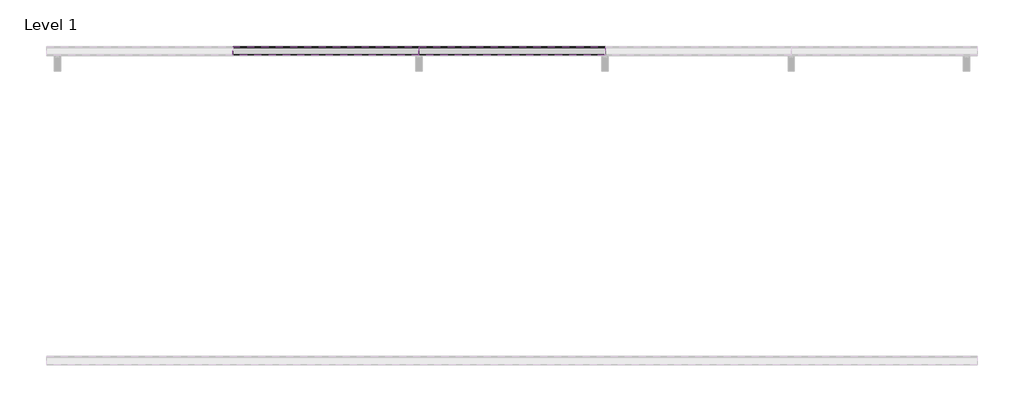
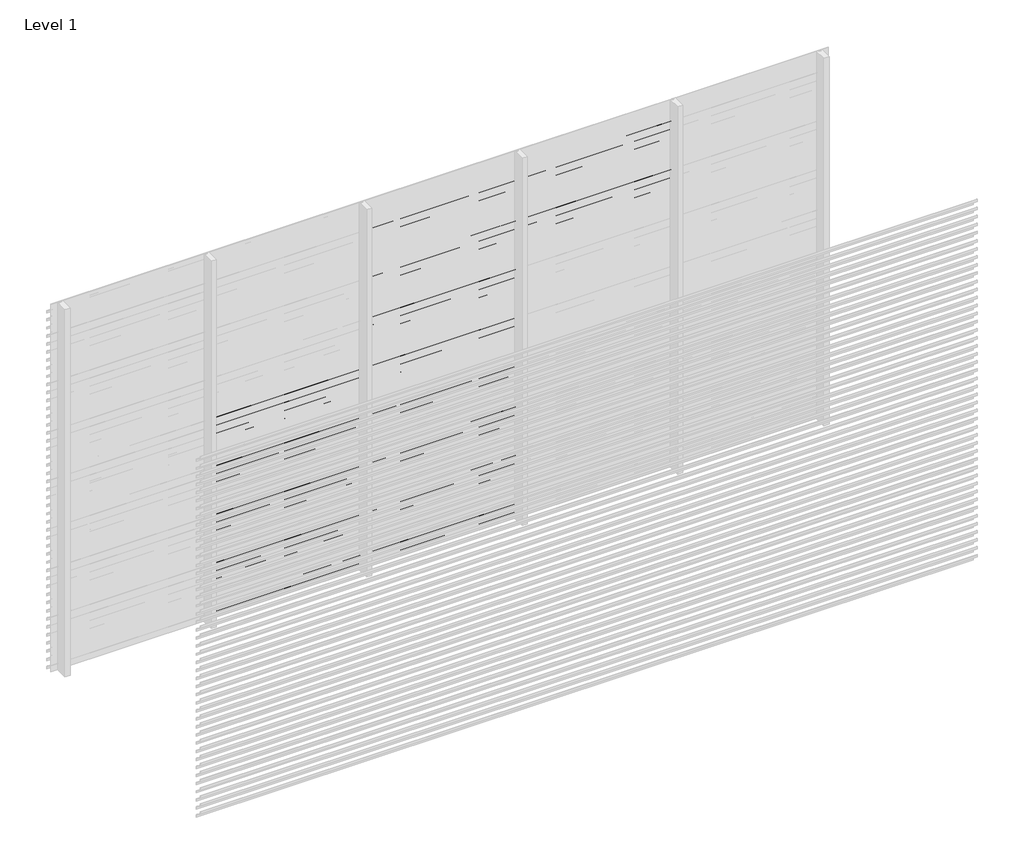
# One storey, part 38 of 540: 84 proxies.
"""IFC4 building model written with IfcOpenShell, lengths in millimetres."""

import ifcopenshell
import ifcopenshell.guid

model = None  # the IFC model being written
_history = None  # IfcOwnerHistory: only IFC2X3 demands one
_inside = {}  # id of a spatial element -> (the spatial element, [elements in it])
_under = {}  # id of a project, library or spatial element -> (it, [spatial elements below it])
_declared = {}  # id of a project -> (the project, [libraries it declares])
_typed = {}  # id of a type object -> (the type object, [elements of that type])
_made_of = {}  # id of a material, layer set ... -> (it, [elements and type objects made of it])


def new_model(schema):
    """Start an empty IFC model of exactly this schema.

    Asked for "IFC4X3", IfcOpenShell would pick the latest addendum, in which some entities
    have other attributes; the version numbers below select the first issue.
    IFC2X3 requires an IfcOwnerHistory on every rooted entity: one is made here for all.
    """
    global model, _history
    if schema == "IFC4X3":
        model = ifcopenshell.file(schema_version=(4, 3, 0, 0))
    else:
        model = ifcopenshell.file(schema=schema)
    _inside.clear()
    _under.clear()
    _declared.clear()
    _typed.clear()
    _made_of.clear()
    _history = None
    if model.schema == "IFC2X3":
        org = make("IfcOrganization", Name="unknown")
        user = make(
            "IfcPersonAndOrganization",
            ThePerson=make("IfcPerson", FamilyName="unknown"),
            TheOrganization=org,
        )
        app = make(
            "IfcApplication",
            ApplicationDeveloper=org,
            Version="unknown",
            ApplicationFullName="unknown",
            ApplicationIdentifier="unknown",
        )
        _history = make(
            "IfcOwnerHistory",
            OwningUser=user,
            OwningApplication=app,
            ChangeAction="ADDED",
            CreationDate=0,
        )
    return model


def make(cls, **values):
    """One entity of the class cls with the attributes given. An attribute that is None is left unset."""
    return model.create_entity(
        cls, **{name: value for name, value in values.items() if value is not None}
    )


def rooted(cls, **values):
    """An entity with a GlobalId (a new one), such as an element, a storey or a relation."""
    return make(cls, GlobalId=ifcopenshell.guid.new(), OwnerHistory=_history, **values)


def si_unit(unit_type, name, prefix=None):
    """IfcSIUnit, for example si_unit("LENGTHUNIT", "METRE", prefix="MILLI")."""
    return make("IfcSIUnit", UnitType=unit_type, Prefix=prefix, Name=name)


def assignment(units):
    """IfcUnitAssignment: the units of a project."""
    return None if units is None else make("IfcUnitAssignment", Units=units)


def point(xyz):
    """IfcCartesianPoint."""
    return None if xyz is None else make("IfcCartesianPoint", Coordinates=xyz)


def direction(xyz):
    """IfcDirection."""
    return None if xyz is None else make("IfcDirection", DirectionRatios=xyz)


def frame(location, z_axis=None, x_axis=None):
    """IfcAxis2Placement3D, a coordinate frame: its origin and axes. An axis left out is left unset."""
    return make(
        "IfcAxis2Placement3D",
        Location=point(location),
        Axis=direction(z_axis),
        RefDirection=direction(x_axis),
    )


def origin():
    """The frame at (0, 0, 0) with its axes left unset."""
    return frame((0.0, 0.0, 0.0))


def place(relative_to, where):
    """IfcLocalPlacement: puts the frame where relative to a parent placement (None: the world)."""
    return make(
        "IfcLocalPlacement", PlacementRelTo=relative_to, RelativePlacement=where
    )


def context(
    kind, dimensions, precision=None, world=None, true_north=None, identifier=None
):
    """IfcGeometricRepresentationContext, for example the 3D "Model" context."""
    return make(
        "IfcGeometricRepresentationContext",
        ContextIdentifier=identifier,
        ContextType=kind,
        CoordinateSpaceDimension=dimensions,
        Precision=precision,
        WorldCoordinateSystem=world,
        TrueNorth=true_north,
    )


def project(units=None, contexts=None):
    """IfcProject with its units and contexts."""
    return rooted(
        "IfcProject",
        Name="project",
        RepresentationContexts=contexts,
        UnitsInContext=assignment(units),
    )


def spatial(cls, under=None, at=None, **own):
    """A site, building, storey or space (cls), placed at a placement, below another one or the project."""
    s = rooted(cls, ObjectPlacement=at, **own)
    if under is not None:
        _under.setdefault(under.id(), (under, []))[1].append(s)
    return s


def polyline(points):
    """IfcPolyline through the points."""
    return make("IfcPolyline", Points=[point(p) for p in points])


def outline(outer, holes=None, kind="AREA"):
    """IfcArbitraryClosedProfileDef: a profile drawn as a closed curve; with holes, ...WithVoids."""
    if holes is None:
        return make("IfcArbitraryClosedProfileDef", ProfileType=kind, OuterCurve=outer)
    return make(
        "IfcArbitraryProfileDefWithVoids",
        ProfileType=kind,
        OuterCurve=outer,
        InnerCurves=holes,
    )


def extrude(swept, where, along, depth):
    """IfcExtrudedAreaSolid: the profile swept, set in the frame where, extruded along a direction by depth."""
    return make(
        "IfcExtrudedAreaSolid",
        SweptArea=swept,
        Position=where,
        ExtrudedDirection=direction(along),
        Depth=depth,
    )


def shape(context_of_items, identifier, shape_type, items):
    """IfcShapeRepresentation: the items that make up one representation, for example the "Body"."""
    return make(
        "IfcShapeRepresentation",
        ContextOfItems=context_of_items,
        RepresentationIdentifier=identifier,
        RepresentationType=shape_type,
        Items=items,
    )


def made_of(thing, what):
    """Note that an element or type object is made of a material, layer set ...; save() writes the relation."""
    if what is not None:
        _made_of.setdefault(what.id(), (what, []))[1].append(thing)
    return thing


def element(
    cls,
    number,
    at=None,
    inside=None,
    cuts=None,
    type_object=None,
    material=None,
    context=None,
    identifier="Body",
    shape_type=None,
    held_by="IfcProductDefinitionShape",
    body=None,
    shapes=None,
    **own,
):
    """One element of the class cls, such as IfcWall. Its Tag is "e" and its number.

    at: its placement. inside: the storey or other place that contains it. cuts: it is an
    opening in that element (IfcRelVoidsElement). A single representation is given by context,
    identifier, shape_type and body (its items); several are given by shapes. held_by: the class
    of the entity that holds the representations. save() writes the other relations.
    """
    e = rooted(cls, Tag="e%d" % number, ObjectPlacement=at, **own)
    if body is not None:
        shapes = [shape(context, identifier, shape_type, body)]
    if shapes is not None:
        e.Representation = make(held_by, Representations=shapes)
    if inside is not None:
        _inside.setdefault(inside.id(), (inside, []))[1].append(e)
    if cuts is not None:
        rooted(
            "IfcRelVoidsElement", RelatingBuildingElement=cuts, RelatedOpeningElement=e
        )
    if type_object is not None:
        _typed.setdefault(type_object.id(), (type_object, []))[1].append(e)
    return made_of(e, material)


def aggregate(whole, parts):
    """IfcRelAggregates: a whole, such as a stair, and the parts it consists of."""
    return rooted("IfcRelAggregates", RelatingObject=whole, RelatedObjects=parts)


def save(model, path):
    """Write the relations noted so far, then the file.

    IfcRelAggregates (storeys below a building ...), IfcRelContainedInSpatialStructure (elements
    in a storey), IfcRelDefinesByType, IfcRelAssociatesMaterial and IfcRelDeclares: one each for
    every whole, place, type object, material and project.
    """
    for whole, parts in _under.values():
        aggregate(whole, parts)
    for where, things in _inside.values():
        rooted(
            "IfcRelContainedInSpatialStructure",
            RelatedElements=things,
            RelatingStructure=where,
        )
    for kind, things in _typed.values():
        rooted("IfcRelDefinesByType", RelatedObjects=things, RelatingType=kind)
    for what, things in _made_of.values():
        rooted("IfcRelAssociatesMaterial", RelatedObjects=things, RelatingMaterial=what)
    for by, libraries in _declared.values():
        rooted("IfcRelDeclares", RelatingContext=by, RelatedDefinitions=libraries)
    model.write(path)


model = new_model("IFC4")

# Units and contexts
model_context = context("Model", 3, world=origin())
ifc_project = project(units=[si_unit("LENGTHUNIT", "METRE", prefix="MILLI")], contexts=[model_context])

# Site, building, storey
site = spatial("IfcSite", under=ifc_project)
building = spatial("IfcBuilding", under=site)
storey = spatial("IfcBuildingStorey", under=building, Name="Level 1", Elevation=0.0)

# Proxies
placement = place(None, origin())
element("IfcBuildingElementProxy", 1, Name="Wall Sweeps", at=placement, inside=storey, context=model_context, shape_type="SweptSolid", body=[
    extrude(outline(polyline([(29081.0540136, 1725.5), (29081.0540136, 1705.5), (29079.8040136, 1706.2216933), (29079.8040136, 1724.7872415), (29026.0540136, 1762.3158044), (29026.0540136, 1782.0), (29027.3040136, 1782.0), (29027.3040136, 1763.0285629), (29081.0540136, 1725.5)])), frame((1666.6208099, 0.0, 0.0), z_axis=(1.0, 0.0, 0.0), x_axis=(0.0, 1.0, 0.0)), (0.0, 0.0, 1.0), 1199.9999999),
])
element("IfcBuildingElementProxy", 2, Name="Wall Sweeps", at=placement, inside=storey, context=model_context, shape_type="SweptSolid", body=[
    extrude(outline(polyline([(29081.0540136, 1659.5), (29081.0540136, 1639.5), (29079.8040136, 1640.2216933), (29079.8040136, 1658.7872415), (29026.0540136, 1696.3158044), (29026.0540136, 1716.0), (29027.3040136, 1716.0), (29027.3040136, 1697.0285629), (29081.0540136, 1659.5)])), frame((1666.6208099, 0.0, 0.0), z_axis=(1.0, 0.0, 0.0), x_axis=(0.0, 1.0, 0.0)), (0.0, 0.0, 1.0), 1199.9999999),
])
element("IfcBuildingElementProxy", 3, Name="Wall Sweeps", at=placement, inside=storey, context=model_context, shape_type="SweptSolid", body=[
    extrude(outline(polyline([(29081.0540136, 1593.5), (29081.0540136, 1573.5), (29079.8040136, 1574.2216933), (29079.8040136, 1592.7872415), (29026.0540136, 1630.3158044), (29026.0540136, 1650.0), (29027.3040136, 1650.0), (29027.3040136, 1631.0285629), (29081.0540136, 1593.5)])), frame((1666.6208099, 0.0, 0.0), z_axis=(1.0, 0.0, 0.0), x_axis=(0.0, 1.0, 0.0)), (0.0, 0.0, 1.0), 1199.9999999),
])
element("IfcBuildingElementProxy", 4, Name="Wall Sweeps", at=placement, inside=storey, context=model_context, shape_type="SweptSolid", body=[
    extrude(outline(polyline([(29081.0540136, 1527.5), (29081.0540136, 1507.5), (29079.8040136, 1508.2216933), (29079.8040136, 1526.7872415), (29026.0540136, 1564.3158044), (29026.0540136, 1584.0), (29027.3040136, 1584.0), (29027.3040136, 1565.0285629), (29081.0540136, 1527.5)])), frame((1666.6208099, 0.0, 0.0), z_axis=(1.0, 0.0, 0.0), x_axis=(0.0, 1.0, 0.0)), (0.0, 0.0, 1.0), 1199.9999999),
])
element("IfcBuildingElementProxy", 5, Name="Wall Sweeps", at=placement, inside=storey, context=model_context, shape_type="SweptSolid", body=[
    extrude(outline(polyline([(29081.0540136, 1461.5), (29081.0540136, 1441.5), (29079.8040136, 1442.2216933), (29079.8040136, 1460.7872415), (29026.0540136, 1498.3158044), (29026.0540136, 1518.0), (29027.3040136, 1518.0), (29027.3040136, 1499.0285629), (29081.0540136, 1461.5)])), frame((1666.6208099, 0.0, 0.0), z_axis=(1.0, 0.0, 0.0), x_axis=(0.0, 1.0, 0.0)), (0.0, 0.0, 1.0), 1199.9999999),
])
element("IfcBuildingElementProxy", 6, Name="Wall Sweeps", at=placement, inside=storey, context=model_context, shape_type="SweptSolid", body=[
    extrude(outline(polyline([(29081.0540136, 1395.5), (29081.0540136, 1375.5), (29079.8040136, 1376.2216933), (29079.8040136, 1394.7872415), (29026.0540136, 1432.3158044), (29026.0540136, 1452.0), (29027.3040136, 1452.0), (29027.3040136, 1433.0285629), (29081.0540136, 1395.5)])), frame((1666.6208099, 0.0, 0.0), z_axis=(1.0, 0.0, 0.0), x_axis=(0.0, 1.0, 0.0)), (0.0, 0.0, 1.0), 1199.9999999),
])
element("IfcBuildingElementProxy", 7, Name="Wall Sweeps", at=placement, inside=storey, context=model_context, shape_type="SweptSolid", body=[
    extrude(outline(polyline([(29081.0540136, 1329.5), (29081.0540136, 1309.5), (29079.8040136, 1310.2216933), (29079.8040136, 1328.7872415), (29026.0540136, 1366.3158044), (29026.0540136, 1386.0), (29027.3040136, 1386.0), (29027.3040136, 1367.0285629), (29081.0540136, 1329.5)])), frame((1666.6208099, 0.0, 0.0), z_axis=(1.0, 0.0, 0.0), x_axis=(0.0, 1.0, 0.0)), (0.0, 0.0, 1.0), 1199.9999999),
])
element("IfcBuildingElementProxy", 8, Name="Wall Sweeps", at=placement, inside=storey, context=model_context, shape_type="SweptSolid", body=[
    extrude(outline(polyline([(29081.0540136, 1263.5), (29081.0540136, 1243.5), (29079.8040136, 1244.2216933), (29079.8040136, 1262.7872415), (29026.0540136, 1300.3158044), (29026.0540136, 1320.0), (29027.3040136, 1320.0), (29027.3040136, 1301.0285629), (29081.0540136, 1263.5)])), frame((1666.6208099, 0.0, 0.0), z_axis=(1.0, 0.0, 0.0), x_axis=(0.0, 1.0, 0.0)), (0.0, 0.0, 1.0), 1199.9999999),
])
element("IfcBuildingElementProxy", 9, Name="Wall Sweeps", at=placement, inside=storey, context=model_context, shape_type="SweptSolid", body=[
    extrude(outline(polyline([(29081.0540136, 1197.5), (29081.0540136, 1177.5), (29079.8040136, 1178.2216933), (29079.8040136, 1196.7872415), (29026.0540136, 1234.3158044), (29026.0540136, 1254.0), (29027.3040136, 1254.0), (29027.3040136, 1235.0285629), (29081.0540136, 1197.5)])), frame((1666.6208099, 0.0, 0.0), z_axis=(1.0, 0.0, 0.0), x_axis=(0.0, 1.0, 0.0)), (0.0, 0.0, 1.0), 1199.9999999),
])
element("IfcBuildingElementProxy", 10, Name="Wall Sweeps", at=placement, inside=storey, context=model_context, shape_type="SweptSolid", body=[
    extrude(outline(polyline([(29081.0540136, 1131.5), (29081.0540136, 1111.5), (29079.8040136, 1112.2216933), (29079.8040136, 1130.7872415), (29026.0540136, 1168.3158044), (29026.0540136, 1188.0), (29027.3040136, 1188.0), (29027.3040136, 1169.0285629), (29081.0540136, 1131.5)])), frame((1666.6208099, 0.0, 0.0), z_axis=(1.0, 0.0, 0.0), x_axis=(0.0, 1.0, 0.0)), (0.0, 0.0, 1.0), 1199.9999999),
])
element("IfcBuildingElementProxy", 11, Name="Wall Sweeps", at=placement, inside=storey, context=model_context, shape_type="SweptSolid", body=[
    extrude(outline(polyline([(29081.0540136, 1065.5), (29081.0540136, 1045.5), (29079.8040136, 1046.2216933), (29079.8040136, 1064.7872415), (29026.0540136, 1102.3158044), (29026.0540136, 1122.0), (29027.3040136, 1122.0), (29027.3040136, 1103.0285629), (29081.0540136, 1065.5)])), frame((1666.6208099, 0.0, 0.0), z_axis=(1.0, 0.0, 0.0), x_axis=(0.0, 1.0, 0.0)), (0.0, 0.0, 1.0), 1199.9999999),
])
element("IfcBuildingElementProxy", 12, Name="Wall Sweeps", at=placement, inside=storey, context=model_context, shape_type="SweptSolid", body=[
    extrude(outline(polyline([(29081.0540136, 999.5), (29081.0540136, 979.5), (29079.8040136, 980.2216933), (29079.8040136, 998.7872415), (29026.0540136, 1036.3158044), (29026.0540136, 1056.0), (29027.3040136, 1056.0), (29027.3040136, 1037.0285629), (29081.0540136, 999.5)])), frame((1666.6208099, 0.0, 0.0), z_axis=(1.0, 0.0, 0.0), x_axis=(0.0, 1.0, 0.0)), (0.0, 0.0, 1.0), 1199.9999999),
])
element("IfcBuildingElementProxy", 13, Name="Wall Sweeps", at=placement, inside=storey, context=model_context, shape_type="SweptSolid", body=[
    extrude(outline(polyline([(29081.0540136, 933.5), (29081.0540136, 913.5), (29079.8040136, 914.2216933), (29079.8040136, 932.7872415), (29026.0540136, 970.3158044), (29026.0540136, 990.0), (29027.3040136, 990.0), (29027.3040136, 971.0285629), (29081.0540136, 933.5)])), frame((1666.6208099, 0.0, 0.0), z_axis=(1.0, 0.0, 0.0), x_axis=(0.0, 1.0, 0.0)), (0.0, 0.0, 1.0), 1199.9999999),
])
element("IfcBuildingElementProxy", 14, Name="Wall Sweeps", at=placement, inside=storey, context=model_context, shape_type="SweptSolid", body=[
    extrude(outline(polyline([(29081.0540136, 867.5), (29081.0540136, 847.5), (29079.8040136, 848.2216933), (29079.8040136, 866.7872415), (29026.0540136, 904.3158044), (29026.0540136, 924.0), (29027.3040136, 924.0), (29027.3040136, 905.0285629), (29081.0540136, 867.5)])), frame((1666.6208099, 0.0, 0.0), z_axis=(1.0, 0.0, 0.0), x_axis=(0.0, 1.0, 0.0)), (0.0, 0.0, 1.0), 1199.9999999),
])
element("IfcBuildingElementProxy", 15, Name="Wall Sweeps", at=placement, inside=storey, context=model_context, shape_type="SweptSolid", body=[
    extrude(outline(polyline([(29081.0540136, 801.5), (29081.0540136, 781.5), (29079.8040136, 782.2216933), (29079.8040136, 800.7872415), (29026.0540136, 838.3158044), (29026.0540136, 858.0), (29027.3040136, 858.0), (29027.3040136, 839.0285629), (29081.0540136, 801.5)])), frame((1666.6208099, 0.0, 0.0), z_axis=(1.0, 0.0, 0.0), x_axis=(0.0, 1.0, 0.0)), (0.0, 0.0, 1.0), 1199.9999999),
])
element("IfcBuildingElementProxy", 16, Name="Wall Sweeps", at=placement, inside=storey, context=model_context, shape_type="SweptSolid", body=[
    extrude(outline(polyline([(29081.0540136, 735.5), (29081.0540136, 715.5), (29079.8040136, 716.2216933), (29079.8040136, 734.7872415), (29026.0540136, 772.3158044), (29026.0540136, 792.0), (29027.3040136, 792.0), (29027.3040136, 773.0285629), (29081.0540136, 735.5)])), frame((1666.6208099, 0.0, 0.0), z_axis=(1.0, 0.0, 0.0), x_axis=(0.0, 1.0, 0.0)), (0.0, 0.0, 1.0), 1199.9999999),
])
element("IfcBuildingElementProxy", 17, Name="Wall Sweeps", at=placement, inside=storey, context=model_context, shape_type="SweptSolid", body=[
    extrude(outline(polyline([(29081.0540136, 669.5), (29081.0540136, 649.5), (29079.8040136, 650.2216933), (29079.8040136, 668.7872415), (29026.0540136, 706.3158044), (29026.0540136, 726.0), (29027.3040136, 726.0), (29027.3040136, 707.0285629), (29081.0540136, 669.5)])), frame((1666.6208099, 0.0, 0.0), z_axis=(1.0, 0.0, 0.0), x_axis=(0.0, 1.0, 0.0)), (0.0, 0.0, 1.0), 1199.9999999),
])
element("IfcBuildingElementProxy", 18, Name="Wall Sweeps", at=placement, inside=storey, context=model_context, shape_type="SweptSolid", body=[
    extrude(outline(polyline([(29081.0540136, 603.5), (29081.0540136, 583.5), (29079.8040136, 584.2216933), (29079.8040136, 602.7872415), (29026.0540136, 640.3158044), (29026.0540136, 660.0), (29027.3040136, 660.0), (29027.3040136, 641.0285629), (29081.0540136, 603.5)])), frame((1666.6208099, 0.0, 0.0), z_axis=(1.0, 0.0, 0.0), x_axis=(0.0, 1.0, 0.0)), (0.0, 0.0, 1.0), 1199.9999999),
])
element("IfcBuildingElementProxy", 19, Name="Wall Sweeps", at=placement, inside=storey, context=model_context, shape_type="SweptSolid", body=[
    extrude(outline(polyline([(29081.0540136, 537.5), (29081.0540136, 517.5), (29079.8040136, 518.2216933), (29079.8040136, 536.7872415), (29026.0540136, 574.3158044), (29026.0540136, 594.0), (29027.3040136, 594.0), (29027.3040136, 575.0285629), (29081.0540136, 537.5)])), frame((1666.6208099, 0.0, 0.0), z_axis=(1.0, 0.0, 0.0), x_axis=(0.0, 1.0, 0.0)), (0.0, 0.0, 1.0), 1199.9999999),
])
element("IfcBuildingElementProxy", 20, Name="Wall Sweeps", at=placement, inside=storey, context=model_context, shape_type="SweptSolid", body=[
    extrude(outline(polyline([(29081.0540136, 471.5), (29081.0540136, 451.5), (29079.8040136, 452.2216933), (29079.8040136, 470.7872415), (29026.0540136, 508.3158044), (29026.0540136, 528.0), (29027.3040136, 528.0), (29027.3040136, 509.0285629), (29081.0540136, 471.5)])), frame((1666.6208099, 0.0, 0.0), z_axis=(1.0, 0.0, 0.0), x_axis=(0.0, 1.0, 0.0)), (0.0, 0.0, 1.0), 1199.9999999),
])
element("IfcBuildingElementProxy", 21, Name="Wall Sweeps", at=placement, inside=storey, context=model_context, shape_type="SweptSolid", body=[
    extrude(outline(polyline([(29081.0540136, 405.5), (29081.0540136, 385.5), (29079.8040136, 386.2216933), (29079.8040136, 404.7872415), (29026.0540136, 442.3158044), (29026.0540136, 462.0), (29027.3040136, 462.0), (29027.3040136, 443.0285629), (29081.0540136, 405.5)])), frame((1666.6208099, 0.0, 0.0), z_axis=(1.0, 0.0, 0.0), x_axis=(0.0, 1.0, 0.0)), (0.0, 0.0, 1.0), 1199.9999999),
])
element("IfcBuildingElementProxy", 22, Name="Wall Sweeps", at=placement, inside=storey, context=model_context, shape_type="SweptSolid", body=[
    extrude(outline(polyline([(29081.0540136, 339.5), (29081.0540136, 319.5), (29079.8040136, 320.2216933), (29079.8040136, 338.7872415), (29026.0540136, 376.3158044), (29026.0540136, 396.0), (29027.3040136, 396.0), (29027.3040136, 377.0285629), (29081.0540136, 339.5)])), frame((1666.6208099, 0.0, 0.0), z_axis=(1.0, 0.0, 0.0), x_axis=(0.0, 1.0, 0.0)), (0.0, 0.0, 1.0), 1199.9999999),
])
element("IfcBuildingElementProxy", 23, Name="Wall Sweeps", at=placement, inside=storey, context=model_context, shape_type="SweptSolid", body=[
    extrude(outline(polyline([(29081.0540136, 273.5), (29081.0540136, 253.5), (29079.8040136, 254.2216933), (29079.8040136, 272.7872415), (29026.0540136, 310.3158044), (29026.0540136, 330.0), (29027.3040136, 330.0), (29027.3040136, 311.0285629), (29081.0540136, 273.5)])), frame((1666.6208099, 0.0, 0.0), z_axis=(1.0, 0.0, 0.0), x_axis=(0.0, 1.0, 0.0)), (0.0, 0.0, 1.0), 1199.9999999),
])
element("IfcBuildingElementProxy", 24, Name="Wall Sweeps", at=placement, inside=storey, context=model_context, shape_type="SweptSolid", body=[
    extrude(outline(polyline([(29081.0540136, 207.5), (29081.0540136, 187.5), (29079.8040136, 188.2216933), (29079.8040136, 206.7872415), (29026.0540136, 244.3158044), (29026.0540136, 264.0), (29027.3040136, 264.0), (29027.3040136, 245.0285629), (29081.0540136, 207.5)])), frame((1666.6208099, 0.0, 0.0), z_axis=(1.0, 0.0, 0.0), x_axis=(0.0, 1.0, 0.0)), (0.0, 0.0, 1.0), 1199.9999999),
])
element("IfcBuildingElementProxy", 25, Name="Wall Sweeps", at=placement, inside=storey, context=model_context, shape_type="SweptSolid", body=[
    extrude(outline(polyline([(29081.0540136, 141.5), (29081.0540136, 121.5), (29079.8040136, 122.2216933), (29079.8040136, 140.7872415), (29026.0540136, 178.3158044), (29026.0540136, 198.0), (29027.3040136, 198.0), (29027.3040136, 179.0285629), (29081.0540136, 141.5)])), frame((1666.6208099, 0.0, 0.0), z_axis=(1.0, 0.0, 0.0), x_axis=(0.0, 1.0, 0.0)), (0.0, 0.0, 1.0), 1199.9999999),
])
element("IfcBuildingElementProxy", 26, Name="Wall Sweeps", at=placement, inside=storey, context=model_context, shape_type="SweptSolid", body=[
    extrude(outline(polyline([(29081.0540136, 75.5), (29081.0540136, 55.5), (29079.8040136, 56.2216933), (29079.8040136, 74.7872415), (29026.0540136, 112.3158044), (29026.0540136, 132.0), (29027.3040136, 132.0), (29027.3040136, 113.0285629), (29081.0540136, 75.5)])), frame((1666.6208099, 0.0, 0.0), z_axis=(1.0, 0.0, 0.0), x_axis=(0.0, 1.0, 0.0)), (0.0, 0.0, 1.0), 1199.9999999),
])
element("IfcBuildingElementProxy", 27, Name="Wall Sweeps", at=placement, inside=storey, context=model_context, shape_type="SweptSolid", body=[
    extrude(outline(polyline([(29081.0540136, 9.5), (29081.0540136, -10.5), (29079.8040136, -9.7783067), (29079.8040136, 8.7872415), (29026.0540136, 46.3158044), (29026.0540136, 66.0), (29027.3040136, 66.0), (29027.3040136, 47.0285629), (29081.0540136, 9.5)])), frame((1666.6208099, 0.0, 0.0), z_axis=(1.0, 0.0, 0.0), x_axis=(0.0, 1.0, 0.0)), (0.0, 0.0, 1.0), 1199.9999999),
])
element("IfcBuildingElementProxy", 28, Name="Wall Sweeps", at=placement, inside=storey, context=model_context, shape_type="SweptSolid", body=[
    extrude(outline(polyline([(29081.0540136, 2913.5), (29081.0540136, 2893.5), (29079.8040136, 2894.2216933), (29079.8040136, 2912.7872415), (29026.0540136, 2950.3158044), (29026.0540136, 2970.0), (29027.3040136, 2970.0), (29027.3040136, 2951.0285629), (29081.0540136, 2913.5)])), frame((2866.6208097, 0.0, 0.0), z_axis=(1.0, 0.0, 0.0), x_axis=(0.0, 1.0, 0.0)), (0.0, 0.0, 1.0), 1199.9999999),
])
element("IfcBuildingElementProxy", 29, Name="Wall Sweeps", at=placement, inside=storey, context=model_context, shape_type="SweptSolid", body=[
    extrude(outline(polyline([(29081.0540136, 2847.5), (29081.0540136, 2827.5), (29079.8040136, 2828.2216933), (29079.8040136, 2846.7872415), (29026.0540136, 2884.3158044), (29026.0540136, 2904.0), (29027.3040136, 2904.0), (29027.3040136, 2885.0285629), (29081.0540136, 2847.5)])), frame((2866.6208097, 0.0, 0.0), z_axis=(1.0, 0.0, 0.0), x_axis=(0.0, 1.0, 0.0)), (0.0, 0.0, 1.0), 1199.9999999),
])
element("IfcBuildingElementProxy", 30, Name="Wall Sweeps", at=placement, inside=storey, context=model_context, shape_type="SweptSolid", body=[
    extrude(outline(polyline([(29081.0540136, 2781.5), (29081.0540136, 2761.5), (29079.8040136, 2762.2216933), (29079.8040136, 2780.7872415), (29026.0540136, 2818.3158044), (29026.0540136, 2838.0), (29027.3040136, 2838.0), (29027.3040136, 2819.0285629), (29081.0540136, 2781.5)])), frame((2866.6208097, 0.0, 0.0), z_axis=(1.0, 0.0, 0.0), x_axis=(0.0, 1.0, 0.0)), (0.0, 0.0, 1.0), 1199.9999999),
])
element("IfcBuildingElementProxy", 31, Name="Wall Sweeps", at=placement, inside=storey, context=model_context, shape_type="SweptSolid", body=[
    extrude(outline(polyline([(29081.0540136, 2715.5), (29081.0540136, 2695.5), (29079.8040136, 2696.2216933), (29079.8040136, 2714.7872415), (29026.0540136, 2752.3158044), (29026.0540136, 2772.0), (29027.3040136, 2772.0), (29027.3040136, 2753.0285629), (29081.0540136, 2715.5)])), frame((2866.6208097, 0.0, 0.0), z_axis=(1.0, 0.0, 0.0), x_axis=(0.0, 1.0, 0.0)), (0.0, 0.0, 1.0), 1199.9999999),
])
element("IfcBuildingElementProxy", 32, Name="Wall Sweeps", at=placement, inside=storey, context=model_context, shape_type="SweptSolid", body=[
    extrude(outline(polyline([(29081.0540136, 2649.5), (29081.0540136, 2629.5), (29079.8040136, 2630.2216933), (29079.8040136, 2648.7872415), (29026.0540136, 2686.3158044), (29026.0540136, 2706.0), (29027.3040136, 2706.0), (29027.3040136, 2687.0285629), (29081.0540136, 2649.5)])), frame((2866.6208097, 0.0, 0.0), z_axis=(1.0, 0.0, 0.0), x_axis=(0.0, 1.0, 0.0)), (0.0, 0.0, 1.0), 1199.9999999),
])
element("IfcBuildingElementProxy", 33, Name="Wall Sweeps", at=placement, inside=storey, context=model_context, shape_type="SweptSolid", body=[
    extrude(outline(polyline([(29081.0540136, 2583.5), (29081.0540136, 2563.5), (29079.8040136, 2564.2216933), (29079.8040136, 2582.7872415), (29026.0540136, 2620.3158044), (29026.0540136, 2640.0), (29027.3040136, 2640.0), (29027.3040136, 2621.0285629), (29081.0540136, 2583.5)])), frame((2866.6208097, 0.0, 0.0), z_axis=(1.0, 0.0, 0.0), x_axis=(0.0, 1.0, 0.0)), (0.0, 0.0, 1.0), 1199.9999999),
])
element("IfcBuildingElementProxy", 34, Name="Wall Sweeps", at=placement, inside=storey, context=model_context, shape_type="SweptSolid", body=[
    extrude(outline(polyline([(29081.0540136, 2517.5), (29081.0540136, 2497.5), (29079.8040136, 2498.2216933), (29079.8040136, 2516.7872415), (29026.0540136, 2554.3158044), (29026.0540136, 2574.0), (29027.3040136, 2574.0), (29027.3040136, 2555.0285629), (29081.0540136, 2517.5)])), frame((2866.6208097, 0.0, 0.0), z_axis=(1.0, 0.0, 0.0), x_axis=(0.0, 1.0, 0.0)), (0.0, 0.0, 1.0), 1199.9999999),
])
element("IfcBuildingElementProxy", 35, Name="Wall Sweeps", at=placement, inside=storey, context=model_context, shape_type="SweptSolid", body=[
    extrude(outline(polyline([(29081.0540136, 2451.5), (29081.0540136, 2431.5), (29079.8040136, 2432.2216933), (29079.8040136, 2450.7872415), (29026.0540136, 2488.3158044), (29026.0540136, 2508.0), (29027.3040136, 2508.0), (29027.3040136, 2489.0285629), (29081.0540136, 2451.5)])), frame((2866.6208097, 0.0, 0.0), z_axis=(1.0, 0.0, 0.0), x_axis=(0.0, 1.0, 0.0)), (0.0, 0.0, 1.0), 1199.9999999),
])
element("IfcBuildingElementProxy", 36, Name="Wall Sweeps", at=placement, inside=storey, context=model_context, shape_type="SweptSolid", body=[
    extrude(outline(polyline([(29081.0540136, 2385.5), (29081.0540136, 2365.5), (29079.8040136, 2366.2216933), (29079.8040136, 2384.7872415), (29026.0540136, 2422.3158044), (29026.0540136, 2442.0), (29027.3040136, 2442.0), (29027.3040136, 2423.0285629), (29081.0540136, 2385.5)])), frame((2866.6208097, 0.0, 0.0), z_axis=(1.0, 0.0, 0.0), x_axis=(0.0, 1.0, 0.0)), (0.0, 0.0, 1.0), 1199.9999999),
])
element("IfcBuildingElementProxy", 37, Name="Wall Sweeps", at=placement, inside=storey, context=model_context, shape_type="SweptSolid", body=[
    extrude(outline(polyline([(29081.0540136, 2319.5), (29081.0540136, 2299.5), (29079.8040136, 2300.2216933), (29079.8040136, 2318.7872415), (29026.0540136, 2356.3158044), (29026.0540136, 2376.0), (29027.3040136, 2376.0), (29027.3040136, 2357.0285629), (29081.0540136, 2319.5)])), frame((2866.6208097, 0.0, 0.0), z_axis=(1.0, 0.0, 0.0), x_axis=(0.0, 1.0, 0.0)), (0.0, 0.0, 1.0), 1199.9999999),
])
element("IfcBuildingElementProxy", 38, Name="Wall Sweeps", at=placement, inside=storey, context=model_context, shape_type="SweptSolid", body=[
    extrude(outline(polyline([(29081.0540136, 2253.5), (29081.0540136, 2233.5), (29079.8040136, 2234.2216933), (29079.8040136, 2252.7872415), (29026.0540136, 2290.3158044), (29026.0540136, 2310.0), (29027.3040136, 2310.0), (29027.3040136, 2291.0285629), (29081.0540136, 2253.5)])), frame((2866.6208097, 0.0, 0.0), z_axis=(1.0, 0.0, 0.0), x_axis=(0.0, 1.0, 0.0)), (0.0, 0.0, 1.0), 1199.9999999),
])
element("IfcBuildingElementProxy", 39, Name="Wall Sweeps", at=placement, inside=storey, context=model_context, shape_type="SweptSolid", body=[
    extrude(outline(polyline([(29081.0540136, 2187.5), (29081.0540136, 2167.5), (29079.8040136, 2168.2216933), (29079.8040136, 2186.7872415), (29026.0540136, 2224.3158044), (29026.0540136, 2244.0), (29027.3040136, 2244.0), (29027.3040136, 2225.0285629), (29081.0540136, 2187.5)])), frame((2866.6208097, 0.0, 0.0), z_axis=(1.0, 0.0, 0.0), x_axis=(0.0, 1.0, 0.0)), (0.0, 0.0, 1.0), 1199.9999999),
])
element("IfcBuildingElementProxy", 40, Name="Wall Sweeps", at=placement, inside=storey, context=model_context, shape_type="SweptSolid", body=[
    extrude(outline(polyline([(29081.0540136, 2121.5), (29081.0540136, 2101.5), (29079.8040136, 2102.2216933), (29079.8040136, 2120.7872415), (29026.0540136, 2158.3158044), (29026.0540136, 2178.0), (29027.3040136, 2178.0), (29027.3040136, 2159.0285629), (29081.0540136, 2121.5)])), frame((2866.6208097, 0.0, 0.0), z_axis=(1.0, 0.0, 0.0), x_axis=(0.0, 1.0, 0.0)), (0.0, 0.0, 1.0), 1199.9999999),
])
element("IfcBuildingElementProxy", 41, Name="Wall Sweeps", at=placement, inside=storey, context=model_context, shape_type="SweptSolid", body=[
    extrude(outline(polyline([(29081.0540136, 2055.5), (29081.0540136, 2035.5), (29079.8040136, 2036.2216933), (29079.8040136, 2054.7872415), (29026.0540136, 2092.3158044), (29026.0540136, 2112.0), (29027.3040136, 2112.0), (29027.3040136, 2093.0285629), (29081.0540136, 2055.5)])), frame((2866.6208097, 0.0, 0.0), z_axis=(1.0, 0.0, 0.0), x_axis=(0.0, 1.0, 0.0)), (0.0, 0.0, 1.0), 1199.9999999),
])
element("IfcBuildingElementProxy", 42, Name="Wall Sweeps", at=placement, inside=storey, context=model_context, shape_type="SweptSolid", body=[
    extrude(outline(polyline([(29081.0540136, 1989.5), (29081.0540136, 1969.5), (29079.8040136, 1970.2216933), (29079.8040136, 1988.7872415), (29026.0540136, 2026.3158044), (29026.0540136, 2046.0), (29027.3040136, 2046.0), (29027.3040136, 2027.0285629), (29081.0540136, 1989.5)])), frame((2866.6208097, 0.0, 0.0), z_axis=(1.0, 0.0, 0.0), x_axis=(0.0, 1.0, 0.0)), (0.0, 0.0, 1.0), 1199.9999999),
])
element("IfcBuildingElementProxy", 43, Name="Wall Sweeps", at=placement, inside=storey, context=model_context, shape_type="SweptSolid", body=[
    extrude(outline(polyline([(29081.0540136, 1923.5), (29081.0540136, 1903.5), (29079.8040136, 1904.2216933), (29079.8040136, 1922.7872415), (29026.0540136, 1960.3158044), (29026.0540136, 1980.0), (29027.3040136, 1980.0), (29027.3040136, 1961.0285629), (29081.0540136, 1923.5)])), frame((2866.6208097, 0.0, 0.0), z_axis=(1.0, 0.0, 0.0), x_axis=(0.0, 1.0, 0.0)), (0.0, 0.0, 1.0), 1199.9999999),
])
element("IfcBuildingElementProxy", 44, Name="Wall Sweeps", at=placement, inside=storey, context=model_context, shape_type="SweptSolid", body=[
    extrude(outline(polyline([(29081.0540136, 1857.5), (29081.0540136, 1837.5), (29079.8040136, 1838.2216933), (29079.8040136, 1856.7872415), (29026.0540136, 1894.3158044), (29026.0540136, 1914.0), (29027.3040136, 1914.0), (29027.3040136, 1895.0285629), (29081.0540136, 1857.5)])), frame((2866.6208097, 0.0, 0.0), z_axis=(1.0, 0.0, 0.0), x_axis=(0.0, 1.0, 0.0)), (0.0, 0.0, 1.0), 1199.9999999),
])
element("IfcBuildingElementProxy", 45, Name="Wall Sweeps", at=placement, inside=storey, context=model_context, shape_type="SweptSolid", body=[
    extrude(outline(polyline([(29081.0540136, 1791.5), (29081.0540136, 1771.5), (29079.8040136, 1772.2216933), (29079.8040136, 1790.7872415), (29026.0540136, 1828.3158044), (29026.0540136, 1848.0), (29027.3040136, 1848.0), (29027.3040136, 1829.0285629), (29081.0540136, 1791.5)])), frame((2866.6208097, 0.0, 0.0), z_axis=(1.0, 0.0, 0.0), x_axis=(0.0, 1.0, 0.0)), (0.0, 0.0, 1.0), 1199.9999999),
])
element("IfcBuildingElementProxy", 46, Name="Wall Sweeps", at=placement, inside=storey, context=model_context, shape_type="SweptSolid", body=[
    extrude(outline(polyline([(29081.0540136, 1725.5), (29081.0540136, 1705.5), (29079.8040136, 1706.2216933), (29079.8040136, 1724.7872415), (29026.0540136, 1762.3158044), (29026.0540136, 1782.0), (29027.3040136, 1782.0), (29027.3040136, 1763.0285629), (29081.0540136, 1725.5)])), frame((2866.6208097, 0.0, 0.0), z_axis=(1.0, 0.0, 0.0), x_axis=(0.0, 1.0, 0.0)), (0.0, 0.0, 1.0), 1199.9999999),
])
element("IfcBuildingElementProxy", 47, Name="Wall Sweeps", at=placement, inside=storey, context=model_context, shape_type="SweptSolid", body=[
    extrude(outline(polyline([(29081.0540136, 1659.5), (29081.0540136, 1639.5), (29079.8040136, 1640.2216933), (29079.8040136, 1658.7872415), (29026.0540136, 1696.3158044), (29026.0540136, 1716.0), (29027.3040136, 1716.0), (29027.3040136, 1697.0285629), (29081.0540136, 1659.5)])), frame((2866.6208097, 0.0, 0.0), z_axis=(1.0, 0.0, 0.0), x_axis=(0.0, 1.0, 0.0)), (0.0, 0.0, 1.0), 1199.9999999),
])
element("IfcBuildingElementProxy", 48, Name="Wall Sweeps", at=placement, inside=storey, context=model_context, shape_type="SweptSolid", body=[
    extrude(outline(polyline([(29081.0540136, 1593.5), (29081.0540136, 1573.5), (29079.8040136, 1574.2216933), (29079.8040136, 1592.7872415), (29026.0540136, 1630.3158044), (29026.0540136, 1650.0), (29027.3040136, 1650.0), (29027.3040136, 1631.0285629), (29081.0540136, 1593.5)])), frame((2866.6208097, 0.0, 0.0), z_axis=(1.0, 0.0, 0.0), x_axis=(0.0, 1.0, 0.0)), (0.0, 0.0, 1.0), 1199.9999999),
])
element("IfcBuildingElementProxy", 49, Name="Wall Sweeps", at=placement, inside=storey, context=model_context, shape_type="SweptSolid", body=[
    extrude(outline(polyline([(29081.0540136, 1527.5), (29081.0540136, 1507.5), (29079.8040136, 1508.2216933), (29079.8040136, 1526.7872415), (29026.0540136, 1564.3158044), (29026.0540136, 1584.0), (29027.3040136, 1584.0), (29027.3040136, 1565.0285629), (29081.0540136, 1527.5)])), frame((2866.6208097, 0.0, 0.0), z_axis=(1.0, 0.0, 0.0), x_axis=(0.0, 1.0, 0.0)), (0.0, 0.0, 1.0), 1199.9999999),
])
element("IfcBuildingElementProxy", 50, Name="Wall Sweeps", at=placement, inside=storey, context=model_context, shape_type="SweptSolid", body=[
    extrude(outline(polyline([(29081.0540136, 1461.5), (29081.0540136, 1441.5), (29079.8040136, 1442.2216933), (29079.8040136, 1460.7872415), (29026.0540136, 1498.3158044), (29026.0540136, 1518.0), (29027.3040136, 1518.0), (29027.3040136, 1499.0285629), (29081.0540136, 1461.5)])), frame((2866.6208097, 0.0, 0.0), z_axis=(1.0, 0.0, 0.0), x_axis=(0.0, 1.0, 0.0)), (0.0, 0.0, 1.0), 1199.9999999),
])
element("IfcBuildingElementProxy", 51, Name="Wall Sweeps", at=placement, inside=storey, context=model_context, shape_type="SweptSolid", body=[
    extrude(outline(polyline([(29081.0540136, 1395.5), (29081.0540136, 1375.5), (29079.8040136, 1376.2216933), (29079.8040136, 1394.7872415), (29026.0540136, 1432.3158044), (29026.0540136, 1452.0), (29027.3040136, 1452.0), (29027.3040136, 1433.0285629), (29081.0540136, 1395.5)])), frame((2866.6208097, 0.0, 0.0), z_axis=(1.0, 0.0, 0.0), x_axis=(0.0, 1.0, 0.0)), (0.0, 0.0, 1.0), 1199.9999999),
])
element("IfcBuildingElementProxy", 52, Name="Wall Sweeps", at=placement, inside=storey, context=model_context, shape_type="SweptSolid", body=[
    extrude(outline(polyline([(29081.0540136, 1329.5), (29081.0540136, 1309.5), (29079.8040136, 1310.2216933), (29079.8040136, 1328.7872415), (29026.0540136, 1366.3158044), (29026.0540136, 1386.0), (29027.3040136, 1386.0), (29027.3040136, 1367.0285629), (29081.0540136, 1329.5)])), frame((2866.6208097, 0.0, 0.0), z_axis=(1.0, 0.0, 0.0), x_axis=(0.0, 1.0, 0.0)), (0.0, 0.0, 1.0), 1199.9999999),
])
element("IfcBuildingElementProxy", 53, Name="Wall Sweeps", at=placement, inside=storey, context=model_context, shape_type="SweptSolid", body=[
    extrude(outline(polyline([(29081.0540136, 1263.5), (29081.0540136, 1243.5), (29079.8040136, 1244.2216933), (29079.8040136, 1262.7872415), (29026.0540136, 1300.3158044), (29026.0540136, 1320.0), (29027.3040136, 1320.0), (29027.3040136, 1301.0285629), (29081.0540136, 1263.5)])), frame((2866.6208097, 0.0, 0.0), z_axis=(1.0, 0.0, 0.0), x_axis=(0.0, 1.0, 0.0)), (0.0, 0.0, 1.0), 1199.9999999),
])
element("IfcBuildingElementProxy", 54, Name="Wall Sweeps", at=placement, inside=storey, context=model_context, shape_type="SweptSolid", body=[
    extrude(outline(polyline([(29081.0540136, 1197.5), (29081.0540136, 1177.5), (29079.8040136, 1178.2216933), (29079.8040136, 1196.7872415), (29026.0540136, 1234.3158044), (29026.0540136, 1254.0), (29027.3040136, 1254.0), (29027.3040136, 1235.0285629), (29081.0540136, 1197.5)])), frame((2866.6208097, 0.0, 0.0), z_axis=(1.0, 0.0, 0.0), x_axis=(0.0, 1.0, 0.0)), (0.0, 0.0, 1.0), 1199.9999999),
])
element("IfcBuildingElementProxy", 55, Name="Wall Sweeps", at=placement, inside=storey, context=model_context, shape_type="SweptSolid", body=[
    extrude(outline(polyline([(29081.0540136, 1131.5), (29081.0540136, 1111.5), (29079.8040136, 1112.2216933), (29079.8040136, 1130.7872415), (29026.0540136, 1168.3158044), (29026.0540136, 1188.0), (29027.3040136, 1188.0), (29027.3040136, 1169.0285629), (29081.0540136, 1131.5)])), frame((2866.6208097, 0.0, 0.0), z_axis=(1.0, 0.0, 0.0), x_axis=(0.0, 1.0, 0.0)), (0.0, 0.0, 1.0), 1199.9999999),
])
element("IfcBuildingElementProxy", 56, Name="Wall Sweeps", at=placement, inside=storey, context=model_context, shape_type="SweptSolid", body=[
    extrude(outline(polyline([(29081.0540136, 1065.5), (29081.0540136, 1045.5), (29079.8040136, 1046.2216933), (29079.8040136, 1064.7872415), (29026.0540136, 1102.3158044), (29026.0540136, 1122.0), (29027.3040136, 1122.0), (29027.3040136, 1103.0285629), (29081.0540136, 1065.5)])), frame((2866.6208097, 0.0, 0.0), z_axis=(1.0, 0.0, 0.0), x_axis=(0.0, 1.0, 0.0)), (0.0, 0.0, 1.0), 1199.9999999),
])
element("IfcBuildingElementProxy", 57, Name="Wall Sweeps", at=placement, inside=storey, context=model_context, shape_type="SweptSolid", body=[
    extrude(outline(polyline([(29081.0540136, 999.5), (29081.0540136, 979.5), (29079.8040136, 980.2216933), (29079.8040136, 998.7872415), (29026.0540136, 1036.3158044), (29026.0540136, 1056.0), (29027.3040136, 1056.0), (29027.3040136, 1037.0285629), (29081.0540136, 999.5)])), frame((2866.6208097, 0.0, 0.0), z_axis=(1.0, 0.0, 0.0), x_axis=(0.0, 1.0, 0.0)), (0.0, 0.0, 1.0), 1199.9999999),
])
element("IfcBuildingElementProxy", 58, Name="Wall Sweeps", at=placement, inside=storey, context=model_context, shape_type="SweptSolid", body=[
    extrude(outline(polyline([(29081.0540136, 933.5), (29081.0540136, 913.5), (29079.8040136, 914.2216933), (29079.8040136, 932.7872415), (29026.0540136, 970.3158044), (29026.0540136, 990.0), (29027.3040136, 990.0), (29027.3040136, 971.0285629), (29081.0540136, 933.5)])), frame((2866.6208097, 0.0, 0.0), z_axis=(1.0, 0.0, 0.0), x_axis=(0.0, 1.0, 0.0)), (0.0, 0.0, 1.0), 1199.9999999),
])
element("IfcBuildingElementProxy", 59, Name="Wall Sweeps", at=placement, inside=storey, context=model_context, shape_type="SweptSolid", body=[
    extrude(outline(polyline([(29081.0540136, 867.5), (29081.0540136, 847.5), (29079.8040136, 848.2216933), (29079.8040136, 866.7872415), (29026.0540136, 904.3158044), (29026.0540136, 924.0), (29027.3040136, 924.0), (29027.3040136, 905.0285629), (29081.0540136, 867.5)])), frame((2866.6208097, 0.0, 0.0), z_axis=(1.0, 0.0, 0.0), x_axis=(0.0, 1.0, 0.0)), (0.0, 0.0, 1.0), 1199.9999999),
])
element("IfcBuildingElementProxy", 60, Name="Wall Sweeps", at=placement, inside=storey, context=model_context, shape_type="SweptSolid", body=[
    extrude(outline(polyline([(29081.0540136, 801.5), (29081.0540136, 781.5), (29079.8040136, 782.2216933), (29079.8040136, 800.7872415), (29026.0540136, 838.3158044), (29026.0540136, 858.0), (29027.3040136, 858.0), (29027.3040136, 839.0285629), (29081.0540136, 801.5)])), frame((2866.6208097, 0.0, 0.0), z_axis=(1.0, 0.0, 0.0), x_axis=(0.0, 1.0, 0.0)), (0.0, 0.0, 1.0), 1199.9999999),
])
element("IfcBuildingElementProxy", 61, Name="Wall Sweeps", at=placement, inside=storey, context=model_context, shape_type="SweptSolid", body=[
    extrude(outline(polyline([(29081.0540136, 735.5), (29081.0540136, 715.5), (29079.8040136, 716.2216933), (29079.8040136, 734.7872415), (29026.0540136, 772.3158044), (29026.0540136, 792.0), (29027.3040136, 792.0), (29027.3040136, 773.0285629), (29081.0540136, 735.5)])), frame((2866.6208097, 0.0, 0.0), z_axis=(1.0, 0.0, 0.0), x_axis=(0.0, 1.0, 0.0)), (0.0, 0.0, 1.0), 1199.9999999),
])
element("IfcBuildingElementProxy", 62, Name="Wall Sweeps", at=placement, inside=storey, context=model_context, shape_type="SweptSolid", body=[
    extrude(outline(polyline([(29081.0540136, 669.5), (29081.0540136, 649.5), (29079.8040136, 650.2216933), (29079.8040136, 668.7872415), (29026.0540136, 706.3158044), (29026.0540136, 726.0), (29027.3040136, 726.0), (29027.3040136, 707.0285629), (29081.0540136, 669.5)])), frame((2866.6208097, 0.0, 0.0), z_axis=(1.0, 0.0, 0.0), x_axis=(0.0, 1.0, 0.0)), (0.0, 0.0, 1.0), 1199.9999999),
])
element("IfcBuildingElementProxy", 63, Name="Wall Sweeps", at=placement, inside=storey, context=model_context, shape_type="SweptSolid", body=[
    extrude(outline(polyline([(29081.0540136, 603.5), (29081.0540136, 583.5), (29079.8040136, 584.2216933), (29079.8040136, 602.7872415), (29026.0540136, 640.3158044), (29026.0540136, 660.0), (29027.3040136, 660.0), (29027.3040136, 641.0285629), (29081.0540136, 603.5)])), frame((2866.6208097, 0.0, 0.0), z_axis=(1.0, 0.0, 0.0), x_axis=(0.0, 1.0, 0.0)), (0.0, 0.0, 1.0), 1199.9999999),
])
element("IfcBuildingElementProxy", 64, Name="Wall Sweeps", at=placement, inside=storey, context=model_context, shape_type="SweptSolid", body=[
    extrude(outline(polyline([(29081.0540136, 537.5), (29081.0540136, 517.5), (29079.8040136, 518.2216933), (29079.8040136, 536.7872415), (29026.0540136, 574.3158044), (29026.0540136, 594.0), (29027.3040136, 594.0), (29027.3040136, 575.0285629), (29081.0540136, 537.5)])), frame((2866.6208097, 0.0, 0.0), z_axis=(1.0, 0.0, 0.0), x_axis=(0.0, 1.0, 0.0)), (0.0, 0.0, 1.0), 1199.9999999),
])
element("IfcBuildingElementProxy", 65, Name="Wall Sweeps", at=placement, inside=storey, context=model_context, shape_type="SweptSolid", body=[
    extrude(outline(polyline([(29081.0540136, 471.5), (29081.0540136, 451.5), (29079.8040136, 452.2216933), (29079.8040136, 470.7872415), (29026.0540136, 508.3158044), (29026.0540136, 528.0), (29027.3040136, 528.0), (29027.3040136, 509.0285629), (29081.0540136, 471.5)])), frame((2866.6208097, 0.0, 0.0), z_axis=(1.0, 0.0, 0.0), x_axis=(0.0, 1.0, 0.0)), (0.0, 0.0, 1.0), 1199.9999999),
])
element("IfcBuildingElementProxy", 66, Name="Wall Sweeps", at=placement, inside=storey, context=model_context, shape_type="SweptSolid", body=[
    extrude(outline(polyline([(29081.0540136, 405.5), (29081.0540136, 385.5), (29079.8040136, 386.2216933), (29079.8040136, 404.7872415), (29026.0540136, 442.3158044), (29026.0540136, 462.0), (29027.3040136, 462.0), (29027.3040136, 443.0285629), (29081.0540136, 405.5)])), frame((2866.6208097, 0.0, 0.0), z_axis=(1.0, 0.0, 0.0), x_axis=(0.0, 1.0, 0.0)), (0.0, 0.0, 1.0), 1199.9999999),
])
element("IfcBuildingElementProxy", 67, Name="Wall Sweeps", at=placement, inside=storey, context=model_context, shape_type="SweptSolid", body=[
    extrude(outline(polyline([(29081.0540136, 339.5), (29081.0540136, 319.5), (29079.8040136, 320.2216933), (29079.8040136, 338.7872415), (29026.0540136, 376.3158044), (29026.0540136, 396.0), (29027.3040136, 396.0), (29027.3040136, 377.0285629), (29081.0540136, 339.5)])), frame((2866.6208097, 0.0, 0.0), z_axis=(1.0, 0.0, 0.0), x_axis=(0.0, 1.0, 0.0)), (0.0, 0.0, 1.0), 1199.9999999),
])
element("IfcBuildingElementProxy", 68, Name="Wall Sweeps", at=placement, inside=storey, context=model_context, shape_type="SweptSolid", body=[
    extrude(outline(polyline([(29081.0540136, 273.5), (29081.0540136, 253.5), (29079.8040136, 254.2216933), (29079.8040136, 272.7872415), (29026.0540136, 310.3158044), (29026.0540136, 330.0), (29027.3040136, 330.0), (29027.3040136, 311.0285629), (29081.0540136, 273.5)])), frame((2866.6208097, 0.0, 0.0), z_axis=(1.0, 0.0, 0.0), x_axis=(0.0, 1.0, 0.0)), (0.0, 0.0, 1.0), 1199.9999999),
])
element("IfcBuildingElementProxy", 69, Name="Wall Sweeps", at=placement, inside=storey, context=model_context, shape_type="SweptSolid", body=[
    extrude(outline(polyline([(29081.0540136, 207.5), (29081.0540136, 187.5), (29079.8040136, 188.2216933), (29079.8040136, 206.7872415), (29026.0540136, 244.3158044), (29026.0540136, 264.0), (29027.3040136, 264.0), (29027.3040136, 245.0285629), (29081.0540136, 207.5)])), frame((2866.6208097, 0.0, 0.0), z_axis=(1.0, 0.0, 0.0), x_axis=(0.0, 1.0, 0.0)), (0.0, 0.0, 1.0), 1199.9999999),
])
element("IfcBuildingElementProxy", 70, Name="Wall Sweeps", at=placement, inside=storey, context=model_context, shape_type="SweptSolid", body=[
    extrude(outline(polyline([(29081.0540136, 141.5), (29081.0540136, 121.5), (29079.8040136, 122.2216933), (29079.8040136, 140.7872415), (29026.0540136, 178.3158044), (29026.0540136, 198.0), (29027.3040136, 198.0), (29027.3040136, 179.0285629), (29081.0540136, 141.5)])), frame((2866.6208097, 0.0, 0.0), z_axis=(1.0, 0.0, 0.0), x_axis=(0.0, 1.0, 0.0)), (0.0, 0.0, 1.0), 1199.9999999),
])
element("IfcBuildingElementProxy", 71, Name="Wall Sweeps", at=placement, inside=storey, context=model_context, shape_type="SweptSolid", body=[
    extrude(outline(polyline([(29081.0540136, 75.5), (29081.0540136, 55.5), (29079.8040136, 56.2216933), (29079.8040136, 74.7872415), (29026.0540136, 112.3158044), (29026.0540136, 132.0), (29027.3040136, 132.0), (29027.3040136, 113.0285629), (29081.0540136, 75.5)])), frame((2866.6208097, 0.0, 0.0), z_axis=(1.0, 0.0, 0.0), x_axis=(0.0, 1.0, 0.0)), (0.0, 0.0, 1.0), 1199.9999999),
])
element("IfcBuildingElementProxy", 72, Name="Wall Sweeps", at=placement, inside=storey, context=model_context, shape_type="SweptSolid", body=[
    extrude(outline(polyline([(29081.0540136, 9.5), (29081.0540136, -10.5), (29079.8040136, -9.7783067), (29079.8040136, 8.7872415), (29026.0540136, 46.3158044), (29026.0540136, 66.0), (29027.3040136, 66.0), (29027.3040136, 47.0285629), (29081.0540136, 9.5)])), frame((2866.6208097, 0.0, 0.0), z_axis=(1.0, 0.0, 0.0), x_axis=(0.0, 1.0, 0.0)), (0.0, 0.0, 1.0), 1199.9999999),
])
element("IfcBuildingElementProxy", 73, Name="Wall Sweeps", at=placement, inside=storey, context=model_context, shape_type="SweptSolid", body=[
    extrude(outline(polyline([(29081.0540136, 2913.5), (29081.0540136, 2893.5), (29079.8040136, 2894.2216933), (29079.8040136, 2912.7872415), (29026.0540136, 2950.3158044), (29026.0540136, 2970.0), (29027.3040136, 2970.0), (29027.3040136, 2951.0285629), (29081.0540136, 2913.5)])), frame((4066.6208096, 0.0, 0.0), z_axis=(1.0, 0.0, 0.0), x_axis=(0.0, 1.0, 0.0)), (0.0, 0.0, 1.0), 1199.9999999),
])
element("IfcBuildingElementProxy", 74, Name="Wall Sweeps", at=placement, inside=storey, context=model_context, shape_type="SweptSolid", body=[
    extrude(outline(polyline([(29081.0540136, 2847.5), (29081.0540136, 2827.5), (29079.8040136, 2828.2216933), (29079.8040136, 2846.7872415), (29026.0540136, 2884.3158044), (29026.0540136, 2904.0), (29027.3040136, 2904.0), (29027.3040136, 2885.0285629), (29081.0540136, 2847.5)])), frame((4066.6208096, 0.0, 0.0), z_axis=(1.0, 0.0, 0.0), x_axis=(0.0, 1.0, 0.0)), (0.0, 0.0, 1.0), 1199.9999999),
])
element("IfcBuildingElementProxy", 75, Name="Wall Sweeps", at=placement, inside=storey, context=model_context, shape_type="SweptSolid", body=[
    extrude(outline(polyline([(29081.0540136, 2781.5), (29081.0540136, 2761.5), (29079.8040136, 2762.2216933), (29079.8040136, 2780.7872415), (29026.0540136, 2818.3158044), (29026.0540136, 2838.0), (29027.3040136, 2838.0), (29027.3040136, 2819.0285629), (29081.0540136, 2781.5)])), frame((4066.6208096, 0.0, 0.0), z_axis=(1.0, 0.0, 0.0), x_axis=(0.0, 1.0, 0.0)), (0.0, 0.0, 1.0), 1199.9999999),
])
element("IfcBuildingElementProxy", 76, Name="Wall Sweeps", at=placement, inside=storey, context=model_context, shape_type="SweptSolid", body=[
    extrude(outline(polyline([(29081.0540136, 2715.5), (29081.0540136, 2695.5), (29079.8040136, 2696.2216933), (29079.8040136, 2714.7872415), (29026.0540136, 2752.3158044), (29026.0540136, 2772.0), (29027.3040136, 2772.0), (29027.3040136, 2753.0285629), (29081.0540136, 2715.5)])), frame((4066.6208096, 0.0, 0.0), z_axis=(1.0, 0.0, 0.0), x_axis=(0.0, 1.0, 0.0)), (0.0, 0.0, 1.0), 1199.9999999),
])
element("IfcBuildingElementProxy", 77, Name="Wall Sweeps", at=placement, inside=storey, context=model_context, shape_type="SweptSolid", body=[
    extrude(outline(polyline([(29081.0540136, 2649.5), (29081.0540136, 2629.5), (29079.8040136, 2630.2216933), (29079.8040136, 2648.7872415), (29026.0540136, 2686.3158044), (29026.0540136, 2706.0), (29027.3040136, 2706.0), (29027.3040136, 2687.0285629), (29081.0540136, 2649.5)])), frame((4066.6208096, 0.0, 0.0), z_axis=(1.0, 0.0, 0.0), x_axis=(0.0, 1.0, 0.0)), (0.0, 0.0, 1.0), 1199.9999999),
])
element("IfcBuildingElementProxy", 78, Name="Wall Sweeps", at=placement, inside=storey, context=model_context, shape_type="SweptSolid", body=[
    extrude(outline(polyline([(29081.0540136, 2583.5), (29081.0540136, 2563.5), (29079.8040136, 2564.2216933), (29079.8040136, 2582.7872415), (29026.0540136, 2620.3158044), (29026.0540136, 2640.0), (29027.3040136, 2640.0), (29027.3040136, 2621.0285629), (29081.0540136, 2583.5)])), frame((4066.6208096, 0.0, 0.0), z_axis=(1.0, 0.0, 0.0), x_axis=(0.0, 1.0, 0.0)), (0.0, 0.0, 1.0), 1199.9999999),
])
element("IfcBuildingElementProxy", 79, Name="Wall Sweeps", at=placement, inside=storey, context=model_context, shape_type="SweptSolid", body=[
    extrude(outline(polyline([(29081.0540136, 2517.5), (29081.0540136, 2497.5), (29079.8040136, 2498.2216933), (29079.8040136, 2516.7872415), (29026.0540136, 2554.3158044), (29026.0540136, 2574.0), (29027.3040136, 2574.0), (29027.3040136, 2555.0285629), (29081.0540136, 2517.5)])), frame((4066.6208096, 0.0, 0.0), z_axis=(1.0, 0.0, 0.0), x_axis=(0.0, 1.0, 0.0)), (0.0, 0.0, 1.0), 1199.9999999),
])
element("IfcBuildingElementProxy", 80, Name="Wall Sweeps", at=placement, inside=storey, context=model_context, shape_type="SweptSolid", body=[
    extrude(outline(polyline([(29081.0540136, 2451.5), (29081.0540136, 2431.5), (29079.8040136, 2432.2216933), (29079.8040136, 2450.7872415), (29026.0540136, 2488.3158044), (29026.0540136, 2508.0), (29027.3040136, 2508.0), (29027.3040136, 2489.0285629), (29081.0540136, 2451.5)])), frame((4066.6208096, 0.0, 0.0), z_axis=(1.0, 0.0, 0.0), x_axis=(0.0, 1.0, 0.0)), (0.0, 0.0, 1.0), 1199.9999999),
])
element("IfcBuildingElementProxy", 81, Name="Wall Sweeps", at=placement, inside=storey, context=model_context, shape_type="SweptSolid", body=[
    extrude(outline(polyline([(29081.0540136, 2385.5), (29081.0540136, 2365.5), (29079.8040136, 2366.2216933), (29079.8040136, 2384.7872415), (29026.0540136, 2422.3158044), (29026.0540136, 2442.0), (29027.3040136, 2442.0), (29027.3040136, 2423.0285629), (29081.0540136, 2385.5)])), frame((4066.6208096, 0.0, 0.0), z_axis=(1.0, 0.0, 0.0), x_axis=(0.0, 1.0, 0.0)), (0.0, 0.0, 1.0), 1199.9999999),
])
element("IfcBuildingElementProxy", 82, Name="Wall Sweeps", at=placement, inside=storey, context=model_context, shape_type="SweptSolid", body=[
    extrude(outline(polyline([(29081.0540136, 2319.5), (29081.0540136, 2299.5), (29079.8040136, 2300.2216933), (29079.8040136, 2318.7872415), (29026.0540136, 2356.3158044), (29026.0540136, 2376.0), (29027.3040136, 2376.0), (29027.3040136, 2357.0285629), (29081.0540136, 2319.5)])), frame((4066.6208096, 0.0, 0.0), z_axis=(1.0, 0.0, 0.0), x_axis=(0.0, 1.0, 0.0)), (0.0, 0.0, 1.0), 1199.9999999),
])
element("IfcBuildingElementProxy", 83, Name="Wall Sweeps", at=placement, inside=storey, context=model_context, shape_type="SweptSolid", body=[
    extrude(outline(polyline([(29081.0540136, 2253.5), (29081.0540136, 2233.5), (29079.8040136, 2234.2216933), (29079.8040136, 2252.7872415), (29026.0540136, 2290.3158044), (29026.0540136, 2310.0), (29027.3040136, 2310.0), (29027.3040136, 2291.0285629), (29081.0540136, 2253.5)])), frame((4066.6208096, 0.0, 0.0), z_axis=(1.0, 0.0, 0.0), x_axis=(0.0, 1.0, 0.0)), (0.0, 0.0, 1.0), 1199.9999999),
])
element("IfcBuildingElementProxy", 84, Name="Wall Sweeps", at=placement, inside=storey, context=model_context, shape_type="SweptSolid", body=[
    extrude(outline(polyline([(29081.0540136, 2187.5), (29081.0540136, 2167.5), (29079.8040136, 2168.2216933), (29079.8040136, 2186.7872415), (29026.0540136, 2224.3158044), (29026.0540136, 2244.0), (29027.3040136, 2244.0), (29027.3040136, 2225.0285629), (29081.0540136, 2187.5)])), frame((4066.6208096, 0.0, 0.0), z_axis=(1.0, 0.0, 0.0), x_axis=(0.0, 1.0, 0.0)), (0.0, 0.0, 1.0), 1199.9999999),
])

save(model, "model.ifc")
